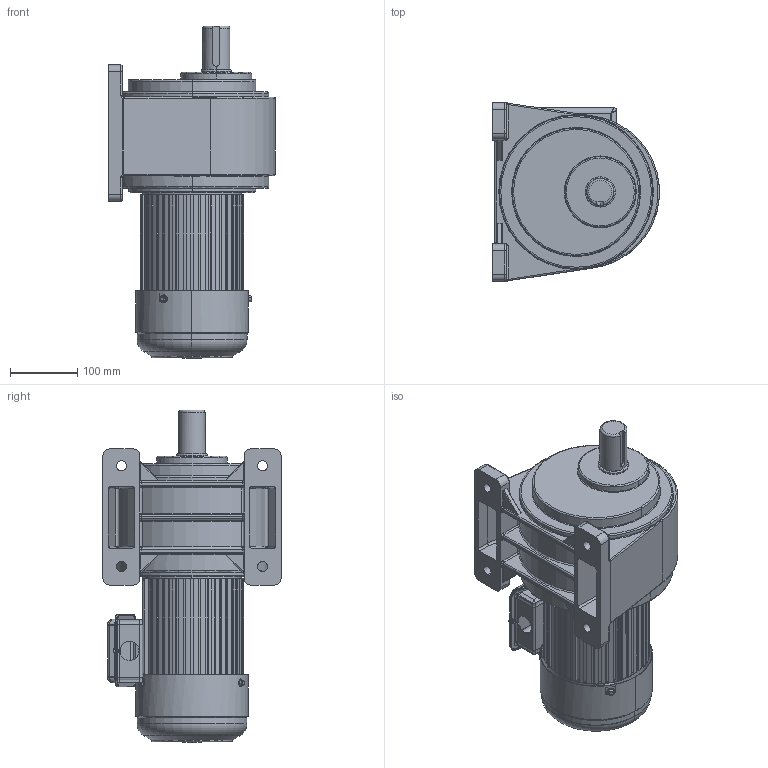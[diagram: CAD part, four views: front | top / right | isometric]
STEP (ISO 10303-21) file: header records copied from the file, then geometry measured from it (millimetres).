
FILE_DESCRIPTION (( 'STEP AP203' ), '1' );
FILE_NAME ('单相750W5#卧式.STEP', '2015-10-31T07:58:46', ( '微软中国' ), ( '微软用户' ), 'SwSTEP 2.0', 'SolidWorks 2009', '' );
FILE_SCHEMA (( 'CONFIG_CONTROL_DESIGN' ));
Length unit declared in the file: millimetre
Products named in the file (11): 等眈 瑞欶400W; 棠憤迖殤400W; 750W儂褲; 等眈750W5#拏宒; 5#拏宒眊极; 等眈750W; 鞠褒蹟邡_GB_FASTENER_BOLT_HFBB M5X10-N; 等眈諉盄碟窒璃; 等眈諉盄碟裔; 等眈諉盄碟釱; Cross recessed pan head screws GB_GB_CROSS_SCREWS_TYPE1 M5X6-6  H type-N
Assembly tree (12 placements, depth 4):
  等眈750W5#拏宒
    5#拏宒眊极
    等眈750W
      等眈 瑞欶400W
      鞠褒蹟邡_GB_FASTENER_BOLT_HFBB M5X10-N  x3
      棠憤迖殤400W
      750W儂褲
      等眈諉盄碟窒璃
        等眈諉盄碟釱
        等眈諉盄碟裔
        Cross recessed pan head screws GB_GB_CROSS_SCREWS_TYPE1 M5X6-6  H type-N
Bounding box: 247.74 x 265 x 494 mm (x, y, z)
Volume: 8366913.9 mm3; surface area: 912304.1 mm2
Topology: 10 solids, 12 shells, 1551 faces, 4155 edges, 2632 vertices
Faces by surface type: plane 729, cylinder 510, bspline 194, torus 86, cone 30, sphere 2
Entity records: 57835 total; most frequent: CARTESIAN_POINT 19453, ORIENTED_EDGE 8034, DIRECTION 7355, EDGE_CURVE 4017, VERTEX_POINT 2572, AXIS2_PLACEMENT_3D 2494, LINE 2367, VECTOR 2367
